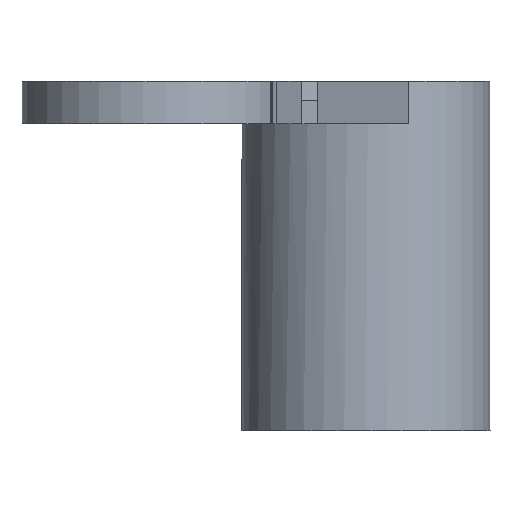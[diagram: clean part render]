
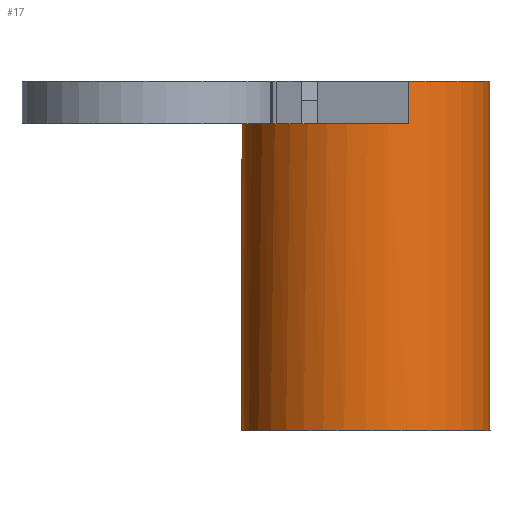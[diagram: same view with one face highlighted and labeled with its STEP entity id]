
A CAD part, left-side view. The second image highlights one B-rep face of the part: STEP entity #17.
In plain terms, the highlighted cylindrical face has radius 3.5 mm (diameter 7 mm), a full revolution.
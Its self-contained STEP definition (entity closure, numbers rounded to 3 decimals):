
#17 = ADVANCED_FACE('',(#18),#33,.T.);
#18 = FACE_BOUND('',#19,.T.);
#19 = EDGE_LOOP('',(#20,#56,#79,#106,#107,#131,#159,#192));
#20 = ORIENTED_EDGE('',*,*,#21,.F.);
#21 = EDGE_CURVE('',#22,#24,#26,.T.);
#22 = VERTEX_POINT('',#23);
#23 = CARTESIAN_POINT('',(17.5,-19.,11.2));
#24 = VERTEX_POINT('',#25);
#25 = CARTESIAN_POINT('',(12.604,-15.791,11.2));
#26 = SURFACE_CURVE('',#27,(#32,#44),.PCURVE_S1.);
#27 = CIRCLE('',#28,3.5);
#28 = AXIS2_PLACEMENT_3D('',#29,#30,#31);
#29 = CARTESIAN_POINT('',(14.,-19.,11.2));
#30 = DIRECTION('',(0.,0.,1.));
#31 = DIRECTION('',(1.,0.,-0.));
#32 = PCURVE('',#33,#38);
#33 = CYLINDRICAL_SURFACE('',#34,3.5);
#34 = AXIS2_PLACEMENT_3D('',#35,#36,#37);
#35 = CARTESIAN_POINT('',(14.,-19.,2.1));
#36 = DIRECTION('',(-0.,-0.,-1.));
#37 = DIRECTION('',(1.,0.,0.));
#38 = DEFINITIONAL_REPRESENTATION('',(#39),#43);
#39 = LINE('',#40,#41);
#40 = CARTESIAN_POINT('',(6.283,-9.1));
#41 = VECTOR('',#42,1.);
#42 = DIRECTION('',(-1.,0.));
#43 = ( GEOMETRIC_REPRESENTATION_CONTEXT(2) 
PARAMETRIC_REPRESENTATION_CONTEXT() REPRESENTATION_CONTEXT('2D SPACE',''
  ) );
#44 = PCURVE('',#45,#50);
#45 = PLANE('',#46);
#46 = AXIS2_PLACEMENT_3D('',#47,#48,#49);
#47 = CARTESIAN_POINT('',(14.,-19.,11.2));
#48 = DIRECTION('',(0.,0.,1.));
#49 = DIRECTION('',(1.,0.,-0.));
#50 = DEFINITIONAL_REPRESENTATION('',(#51),#55);
#51 = CIRCLE('',#52,3.5);
#52 = AXIS2_PLACEMENT_2D('',#53,#54);
#53 = CARTESIAN_POINT('',(0.,0.));
#54 = DIRECTION('',(1.,0.));
#55 = ( GEOMETRIC_REPRESENTATION_CONTEXT(2) 
PARAMETRIC_REPRESENTATION_CONTEXT() REPRESENTATION_CONTEXT('2D SPACE',''
  ) );
#56 = ORIENTED_EDGE('',*,*,#57,.T.);
#57 = EDGE_CURVE('',#22,#58,#60,.T.);
#58 = VERTEX_POINT('',#59);
#59 = CARTESIAN_POINT('',(17.5,-19.,1.35));
#60 = SEAM_CURVE('',#61,(#65,#72),.PCURVE_S1.);
#61 = LINE('',#62,#63);
#62 = CARTESIAN_POINT('',(17.5,-19.,11.2));
#63 = VECTOR('',#64,1.);
#64 = DIRECTION('',(0.,0.,-1.));
#65 = PCURVE('',#33,#66);
#66 = DEFINITIONAL_REPRESENTATION('',(#67),#71);
#67 = LINE('',#68,#69);
#68 = CARTESIAN_POINT('',(6.283,-9.1));
#69 = VECTOR('',#70,1.);
#70 = DIRECTION('',(0.,1.));
#71 = ( GEOMETRIC_REPRESENTATION_CONTEXT(2) 
PARAMETRIC_REPRESENTATION_CONTEXT() REPRESENTATION_CONTEXT('2D SPACE',''
  ) );
#72 = PCURVE('',#33,#73);
#73 = DEFINITIONAL_REPRESENTATION('',(#74),#78);
#74 = LINE('',#75,#76);
#75 = CARTESIAN_POINT('',(0.,-9.1));
#76 = VECTOR('',#77,1.);
#77 = DIRECTION('',(0.,1.));
#78 = ( GEOMETRIC_REPRESENTATION_CONTEXT(2) 
PARAMETRIC_REPRESENTATION_CONTEXT() REPRESENTATION_CONTEXT('2D SPACE',''
  ) );
#79 = ORIENTED_EDGE('',*,*,#80,.T.);
#80 = EDGE_CURVE('',#58,#58,#81,.T.);
#81 = SURFACE_CURVE('',#82,(#87,#94),.PCURVE_S1.);
#82 = CIRCLE('',#83,3.5);
#83 = AXIS2_PLACEMENT_3D('',#84,#85,#86);
#84 = CARTESIAN_POINT('',(14.,-19.,1.35));
#85 = DIRECTION('',(0.,0.,1.));
#86 = DIRECTION('',(1.,0.,0.));
#87 = PCURVE('',#33,#88);
#88 = DEFINITIONAL_REPRESENTATION('',(#89),#93);
#89 = LINE('',#90,#91);
#90 = CARTESIAN_POINT('',(6.283,0.75));
#91 = VECTOR('',#92,1.);
#92 = DIRECTION('',(-1.,0.));
#93 = ( GEOMETRIC_REPRESENTATION_CONTEXT(2) 
PARAMETRIC_REPRESENTATION_CONTEXT() REPRESENTATION_CONTEXT('2D SPACE',''
  ) );
#94 = PCURVE('',#95,#100);
#95 = PLANE('',#96);
#96 = AXIS2_PLACEMENT_3D('',#97,#98,#99);
#97 = CARTESIAN_POINT('',(14.,-19.,1.35));
#98 = DIRECTION('',(0.,0.,1.));
#99 = DIRECTION('',(1.,0.,-0.));
#100 = DEFINITIONAL_REPRESENTATION('',(#101),#105);
#101 = CIRCLE('',#102,3.5);
#102 = AXIS2_PLACEMENT_2D('',#103,#104);
#103 = CARTESIAN_POINT('',(0.,0.));
#104 = DIRECTION('',(1.,0.));
#105 = ( GEOMETRIC_REPRESENTATION_CONTEXT(2) 
PARAMETRIC_REPRESENTATION_CONTEXT() REPRESENTATION_CONTEXT('2D SPACE',''
  ) );
#106 = ORIENTED_EDGE('',*,*,#57,.F.);
#107 = ORIENTED_EDGE('',*,*,#108,.F.);
#108 = EDGE_CURVE('',#109,#22,#111,.T.);
#109 = VERTEX_POINT('',#110);
#110 = CARTESIAN_POINT('',(10.713,-20.202,11.2));
#111 = SURFACE_CURVE('',#112,(#117,#124),.PCURVE_S1.);
#112 = CIRCLE('',#113,3.5);
#113 = AXIS2_PLACEMENT_3D('',#114,#115,#116);
#114 = CARTESIAN_POINT('',(14.,-19.,11.2));
#115 = DIRECTION('',(0.,0.,1.));
#116 = DIRECTION('',(1.,0.,-0.));
#117 = PCURVE('',#33,#118);
#118 = DEFINITIONAL_REPRESENTATION('',(#119),#123);
#119 = LINE('',#120,#121);
#120 = CARTESIAN_POINT('',(6.283,-9.1));
#121 = VECTOR('',#122,1.);
#122 = DIRECTION('',(-1.,0.));
#123 = ( GEOMETRIC_REPRESENTATION_CONTEXT(2) 
PARAMETRIC_REPRESENTATION_CONTEXT() REPRESENTATION_CONTEXT('2D SPACE',''
  ) );
#124 = PCURVE('',#45,#125);
#125 = DEFINITIONAL_REPRESENTATION('',(#126),#130);
#126 = CIRCLE('',#127,3.5);
#127 = AXIS2_PLACEMENT_2D('',#128,#129);
#128 = CARTESIAN_POINT('',(0.,0.));
#129 = DIRECTION('',(1.,0.));
#130 = ( GEOMETRIC_REPRESENTATION_CONTEXT(2) 
PARAMETRIC_REPRESENTATION_CONTEXT() REPRESENTATION_CONTEXT('2D SPACE',''
  ) );
#131 = ORIENTED_EDGE('',*,*,#132,.T.);
#132 = EDGE_CURVE('',#109,#133,#135,.T.);
#133 = VERTEX_POINT('',#134);
#134 = CARTESIAN_POINT('',(10.713,-20.202,10.));
#135 = SURFACE_CURVE('',#136,(#140,#147),.PCURVE_S1.);
#136 = LINE('',#137,#138);
#137 = CARTESIAN_POINT('',(10.713,-20.202,10.));
#138 = VECTOR('',#139,1.);
#139 = DIRECTION('',(-0.,-0.,-1.));
#140 = PCURVE('',#33,#141);
#141 = DEFINITIONAL_REPRESENTATION('',(#142),#146);
#142 = LINE('',#143,#144);
#143 = CARTESIAN_POINT('',(2.791,-7.9));
#144 = VECTOR('',#145,1.);
#145 = DIRECTION('',(-0.,1.));
#146 = ( GEOMETRIC_REPRESENTATION_CONTEXT(2) 
PARAMETRIC_REPRESENTATION_CONTEXT() REPRESENTATION_CONTEXT('2D SPACE',''
  ) );
#147 = PCURVE('',#148,#153);
#148 = PLANE('',#149);
#149 = AXIS2_PLACEMENT_3D('',#150,#151,#152);
#150 = CARTESIAN_POINT('',(-0.945,-15.206,10.));
#151 = DIRECTION('',(0.394,0.919,0.));
#152 = DIRECTION('',(0.,-0.,1.));
#153 = DEFINITIONAL_REPRESENTATION('',(#154),#158);
#154 = LINE('',#155,#156);
#155 = CARTESIAN_POINT('',(0.,12.684));
#156 = VECTOR('',#157,1.);
#157 = DIRECTION('',(-1.,0.));
#158 = ( GEOMETRIC_REPRESENTATION_CONTEXT(2) 
PARAMETRIC_REPRESENTATION_CONTEXT() REPRESENTATION_CONTEXT('2D SPACE',''
  ) );
#159 = ORIENTED_EDGE('',*,*,#160,.T.);
#160 = EDGE_CURVE('',#133,#161,#163,.T.);
#161 = VERTEX_POINT('',#162);
#162 = CARTESIAN_POINT('',(12.604,-15.791,10.));
#163 = SURFACE_CURVE('',#164,(#169,#176),.PCURVE_S1.);
#164 = CIRCLE('',#165,3.5);
#165 = AXIS2_PLACEMENT_3D('',#166,#167,#168);
#166 = CARTESIAN_POINT('',(14.,-19.,10.));
#167 = DIRECTION('',(0.,0.,-1.));
#168 = DIRECTION('',(1.,0.,0.));
#169 = PCURVE('',#33,#170);
#170 = DEFINITIONAL_REPRESENTATION('',(#171),#175);
#171 = LINE('',#172,#173);
#172 = CARTESIAN_POINT('',(0.,-7.9));
#173 = VECTOR('',#174,1.);
#174 = DIRECTION('',(1.,-0.));
#175 = ( GEOMETRIC_REPRESENTATION_CONTEXT(2) 
PARAMETRIC_REPRESENTATION_CONTEXT() REPRESENTATION_CONTEXT('2D SPACE',''
  ) );
#176 = PCURVE('',#177,#182);
#177 = PLANE('',#178);
#178 = AXIS2_PLACEMENT_3D('',#179,#180,#181);
#179 = CARTESIAN_POINT('',(0.,-13.,10.));
#180 = DIRECTION('',(0.,0.,1.));
#181 = DIRECTION('',(1.,0.,-0.));
#182 = DEFINITIONAL_REPRESENTATION('',(#183),#191);
#183 = ( BOUNDED_CURVE() B_SPLINE_CURVE(2,(#184,#185,#186,#187,#188,#189
,#190),.UNSPECIFIED.,.T.,.F.) B_SPLINE_CURVE_WITH_KNOTS((1,2,2,2,2,1),(
    -2.094,0.,2.094,4.189,6.283,
8.378),.UNSPECIFIED.) CURVE() GEOMETRIC_REPRESENTATION_ITEM() 
RATIONAL_B_SPLINE_CURVE((1.,0.5,1.,0.5,1.,0.5,1.)) REPRESENTATION_ITEM(
  '') );
#184 = CARTESIAN_POINT('',(17.5,-6.));
#185 = CARTESIAN_POINT('',(17.5,-12.062));
#186 = CARTESIAN_POINT('',(12.25,-9.031));
#187 = CARTESIAN_POINT('',(7.,-6.));
#188 = CARTESIAN_POINT('',(12.25,-2.969));
#189 = CARTESIAN_POINT('',(17.5,0.062));
#190 = CARTESIAN_POINT('',(17.5,-6.));
#191 = ( GEOMETRIC_REPRESENTATION_CONTEXT(2) 
PARAMETRIC_REPRESENTATION_CONTEXT() REPRESENTATION_CONTEXT('2D SPACE',''
  ) );
#192 = ORIENTED_EDGE('',*,*,#193,.F.);
#193 = EDGE_CURVE('',#24,#161,#194,.T.);
#194 = SURFACE_CURVE('',#195,(#199,#206),.PCURVE_S1.);
#195 = LINE('',#196,#197);
#196 = CARTESIAN_POINT('',(12.604,-15.791,10.));
#197 = VECTOR('',#198,1.);
#198 = DIRECTION('',(-0.,-0.,-1.));
#199 = PCURVE('',#33,#200);
#200 = DEFINITIONAL_REPRESENTATION('',(#201),#205);
#201 = LINE('',#202,#203);
#202 = CARTESIAN_POINT('',(4.302,-7.9));
#203 = VECTOR('',#204,1.);
#204 = DIRECTION('',(-0.,1.));
#205 = ( GEOMETRIC_REPRESENTATION_CONTEXT(2) 
PARAMETRIC_REPRESENTATION_CONTEXT() REPRESENTATION_CONTEXT('2D SPACE',''
  ) );
#206 = PCURVE('',#207,#212);
#207 = PLANE('',#208);
#208 = AXIS2_PLACEMENT_3D('',#209,#210,#211);
#209 = CARTESIAN_POINT('',(0.945,-10.794,10.));
#210 = DIRECTION('',(0.394,0.919,0.));
#211 = DIRECTION('',(0.,-0.,1.));
#212 = DEFINITIONAL_REPRESENTATION('',(#213),#217);
#213 = LINE('',#214,#215);
#214 = CARTESIAN_POINT('',(0.,12.684));
#215 = VECTOR('',#216,1.);
#216 = DIRECTION('',(-1.,0.));
#217 = ( GEOMETRIC_REPRESENTATION_CONTEXT(2) 
PARAMETRIC_REPRESENTATION_CONTEXT() REPRESENTATION_CONTEXT('2D SPACE',''
  ) );
